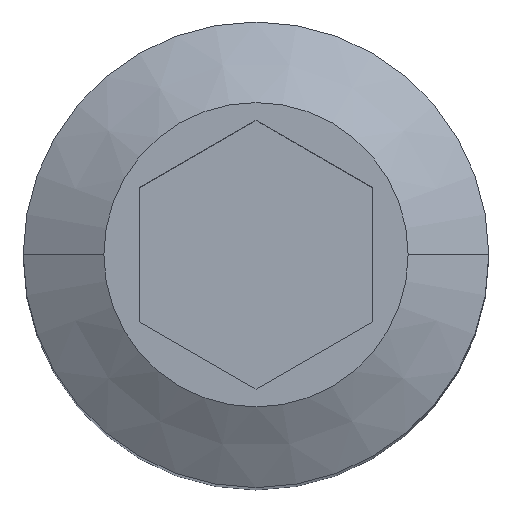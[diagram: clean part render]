
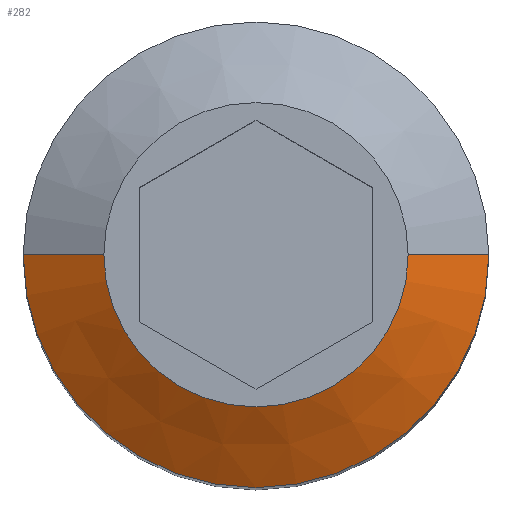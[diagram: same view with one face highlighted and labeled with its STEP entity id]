
A CAD part, top view. The second image highlights one B-rep face of the part: STEP entity #282.
In plain terms, the highlighted conical face has half-angle 60 degrees and reference radius 1.634 mm.
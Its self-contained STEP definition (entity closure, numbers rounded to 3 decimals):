
#40 = EDGE_CURVE ( 'NONE', #341, #76, #285, .T. ) ;
#49 = DIRECTION ( 'NONE',  ( 0., 0., 1. ) ) ;
#76 = VERTEX_POINT ( 'NONE', #296 ) ;
#83 = CARTESIAN_POINT ( 'NONE',  ( 1.634, 0., 18. ) ) ;
#93 = VECTOR ( 'NONE', #474, 1000. ) ;
#95 = AXIS2_PLACEMENT_3D ( 'NONE', #496, #108, #362 ) ;
#108 = DIRECTION ( 'NONE',  ( 0., 0., -1. ) ) ;
#155 = DIRECTION ( 'NONE',  ( 0., 0., -1. ) ) ;
#225 = CONICAL_SURFACE ( 'NONE', #559, 1.634, 1.047 ) ;
#239 = LINE ( 'NONE', #550, #298 ) ;
#243 = CARTESIAN_POINT ( 'NONE',  ( 0., 0., 18. ) ) ;
#256 = CARTESIAN_POINT ( 'NONE',  ( 0., 0., 18. ) ) ;
#268 = FACE_OUTER_BOUND ( 'NONE', #378, .T. ) ;
#269 = EDGE_CURVE ( 'NONE', #556, #334, #239, .T. ) ;
#276 = ORIENTED_EDGE ( 'NONE', *, *, #441, .F. ) ;
#282 = ADVANCED_FACE ( 'NONE', ( #268 ), #225, .T. ) ;
#285 = LINE ( 'NONE', #83, #93 ) ;
#296 = CARTESIAN_POINT ( 'NONE',  ( 2.5, 0., 17.5 ) ) ;
#298 = VECTOR ( 'NONE', #309, 1000. ) ;
#309 = DIRECTION ( 'NONE',  ( -0.866, 0., -0.5 ) ) ;
#334 = VERTEX_POINT ( 'NONE', #414 ) ;
#341 = VERTEX_POINT ( 'NONE', #454 ) ;
#352 = CIRCLE ( 'NONE', #483, 1.634 ) ;
#362 = DIRECTION ( 'NONE',  ( 1., 0., 0. ) ) ;
#378 = EDGE_LOOP ( 'NONE', ( #420, #276, #462, #428 ) ) ;
#392 = DIRECTION ( 'NONE',  ( 1., 0., 0. ) ) ;
#400 = CARTESIAN_POINT ( 'NONE',  ( -1.634, 0., 18. ) ) ;
#414 = CARTESIAN_POINT ( 'NONE',  ( -2.5, 0., 17.5 ) ) ;
#420 = ORIENTED_EDGE ( 'NONE', *, *, #40, .F. ) ;
#428 = ORIENTED_EDGE ( 'NONE', *, *, #546, .F. ) ;
#441 = EDGE_CURVE ( 'NONE', #556, #341, #352, .T. ) ;
#453 = CIRCLE ( 'NONE', #95, 2.5 ) ;
#454 = CARTESIAN_POINT ( 'NONE',  ( 1.634, 0., 18. ) ) ;
#462 = ORIENTED_EDGE ( 'NONE', *, *, #269, .T. ) ;
#474 = DIRECTION ( 'NONE',  ( 0.866, 0., -0.5 ) ) ;
#483 = AXIS2_PLACEMENT_3D ( 'NONE', #256, #49, #392 ) ;
#496 = CARTESIAN_POINT ( 'NONE',  ( 0., 0., 17.5 ) ) ;
#508 = DIRECTION ( 'NONE',  ( -1., 0., 0. ) ) ;
#546 = EDGE_CURVE ( 'NONE', #76, #334, #453, .T. ) ;
#550 = CARTESIAN_POINT ( 'NONE',  ( -1.634, 0., 18. ) ) ;
#556 = VERTEX_POINT ( 'NONE', #400 ) ;
#559 = AXIS2_PLACEMENT_3D ( 'NONE', #243, #155, #508 ) ;
